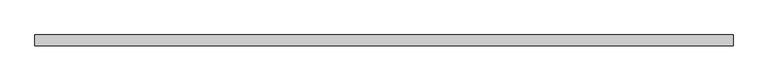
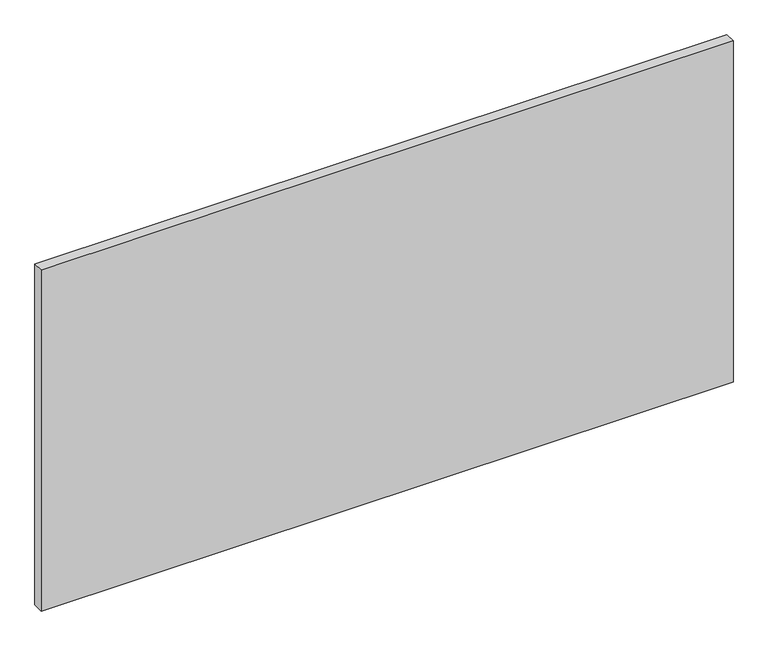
"""IFC4 building model written with IfcOpenShell, lengths in millimetres: plate geometry, Системная панель : ADSK_Cтеклопакет_25."""

from ifc_helpers import new_model, si_unit, origin, origin_with_axes, place, context, project, spatial, polyline, outline, extrude, source, transform, mapped, element, save


def plate_1786935c(model_context):
    return source(origin(), model_context, "Body", "SweptSolid", [
        extrude(outline(polyline([(815.0, -12.5), (-815.0, -12.5), (-815.0, 12.5), (815.0, 12.5), (815.0, -12.5)])), origin_with_axes(), (0.0, 0.0, 1.0), 850.0),
    ])


if __name__ == "__main__":
    model = new_model("IFC4")
    model_context = context("Model", 3, world=origin())
    ifc_project = project(units=[si_unit("LENGTHUNIT", "METRE", prefix="MILLI")], contexts=[model_context])
    site = spatial("IfcSite", under=ifc_project)
    building = spatial("IfcBuilding", under=site)
    placement = place(None, origin())
    plate_shape = plate_1786935c(model_context)
    element("IfcPlate", 1, ObjectType="Системная панель : ADSK_Cтеклопакет_25", at=placement, inside=building, context=model_context, shape_type="MappedRepresentation", body=[
        mapped(plate_shape, transform((0.0, 0.0, 0.0), x_axis=(1.0, 0.0, 0.0), y_axis=(0.0, 1.0, 0.0), z_axis=(0.0, 0.0, 1.0))),
    ])
    save(model, "model.ifc")
